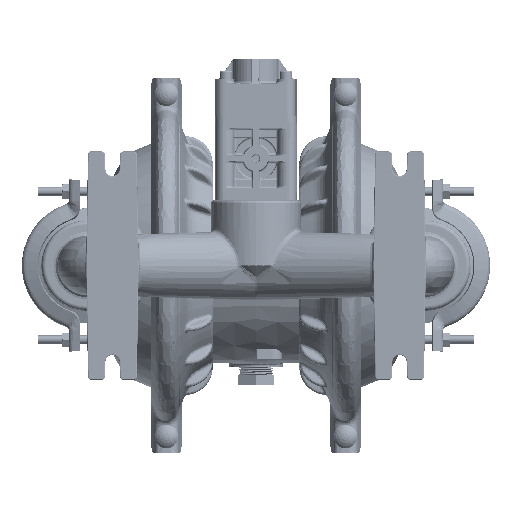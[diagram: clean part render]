
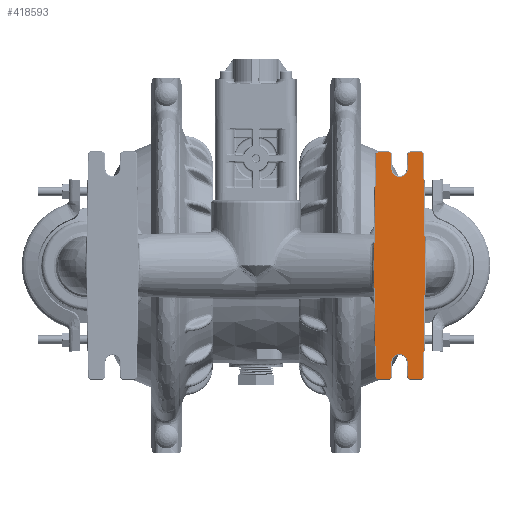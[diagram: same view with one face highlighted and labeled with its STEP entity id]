
A CAD part, front view. The second image highlights one B-rep face of the part: STEP entity #418593.
In plain terms, the highlighted planar face has unit normal (0, -1, 0).
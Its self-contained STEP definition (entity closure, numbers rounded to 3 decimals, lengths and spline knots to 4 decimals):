
#125332=DIRECTION('',(-0.017,0.,1.));
#125333=VECTOR('',#125332,3.4116);
#125334=CARTESIAN_POINT('',(3.6835,-7.682,-3.411));
#125335=LINE('',#125334,#125333);
#125336=DIRECTION('',(-0.017,0.,-1.));
#125337=VECTOR('',#125336,3.4116);
#125338=CARTESIAN_POINT('',(3.6835,-7.682,3.411));
#125339=LINE('',#125338,#125337);
#125340=CARTESIAN_POINT('',(3.7434,-7.682,3.41));
#125341=DIRECTION('',(0.,-1.,0.));
#125342=DIRECTION('',(0.,0.,1.));
#125343=AXIS2_PLACEMENT_3D('',#125340,#125341,#125342);
#125345=DIRECTION('',(-1.,0.,0.));
#125346=VECTOR('',#125345,0.3399);
#125347=CARTESIAN_POINT('',(4.0834,-7.682,3.47));
#125348=LINE('',#125347,#125346);
#125349=CARTESIAN_POINT('',(4.0834,-7.682,3.41));
#125350=DIRECTION('',(0.,-1.,0.));
#125351=DIRECTION('',(1.,0.,0.026));
#125352=AXIS2_PLACEMENT_3D('',#125349,#125350,#125351);
#125354=DIRECTION('',(-0.026,0.,1.));
#125355=VECTOR('',#125354,0.4483);
#125356=CARTESIAN_POINT('',(4.1551,-7.682,2.9635));
#125357=LINE('',#125356,#125355);
#125358=CARTESIAN_POINT('',(4.405,-7.682,2.97));
#125359=DIRECTION('',(0.,1.,0.));
#125360=DIRECTION('',(1.,0.,-0.026));
#125361=AXIS2_PLACEMENT_3D('',#125358,#125359,#125360);
#125363=DIRECTION('',(-0.026,0.,-1.));
#125364=VECTOR('',#125363,0.4483);
#125365=CARTESIAN_POINT('',(4.6666,-7.682,3.4116));
#125366=LINE('',#125365,#125364);
#125367=CARTESIAN_POINT('',(4.7266,-7.682,3.41));
#125368=DIRECTION('',(0.,-1.,0.));
#125369=DIRECTION('',(0.,0.,1.));
#125370=AXIS2_PLACEMENT_3D('',#125367,#125368,#125369);
#125372=DIRECTION('',(-1.,0.,0.));
#125373=VECTOR('',#125372,0.3399);
#125374=CARTESIAN_POINT('',(5.0666,-7.682,3.47));
#125375=LINE('',#125374,#125373);
#125376=CARTESIAN_POINT('',(5.0666,-7.682,3.41));
#125377=DIRECTION('',(0.,-1.,0.));
#125378=DIRECTION('',(1.,0.,0.017));
#125379=AXIS2_PLACEMENT_3D('',#125376,#125377,#125378);
#125381=DIRECTION('',(-0.017,0.,1.));
#125382=VECTOR('',#125381,3.4116);
#125383=CARTESIAN_POINT('',(5.1861,-7.682,0.));
#125384=LINE('',#125383,#125382);
#125385=DIRECTION('',(-0.017,0.,-1.));
#125386=VECTOR('',#125385,3.4116);
#125387=CARTESIAN_POINT('',(5.1861,-7.682,0.));
#125388=LINE('',#125387,#125386);
#125389=CARTESIAN_POINT('',(5.0666,-7.682,-3.41));
#125390=DIRECTION('',(0.,1.,0.));
#125391=DIRECTION('',(1.,0.,-0.017));
#125392=AXIS2_PLACEMENT_3D('',#125389,#125390,#125391);
#125394=DIRECTION('',(-1.,0.,0.));
#125395=VECTOR('',#125394,0.3399);
#125396=CARTESIAN_POINT('',(5.0666,-7.682,-3.47));
#125397=LINE('',#125396,#125395);
#125398=CARTESIAN_POINT('',(4.7266,-7.682,-3.41));
#125399=DIRECTION('',(0.,1.,0.));
#125400=DIRECTION('',(0.,0.,-1.));
#125401=AXIS2_PLACEMENT_3D('',#125398,#125399,#125400);
#125403=DIRECTION('',(-0.026,0.,1.));
#125404=VECTOR('',#125403,0.4483);
#125405=CARTESIAN_POINT('',(4.6666,-7.682,-3.4116));
#125406=LINE('',#125405,#125404);
#125407=CARTESIAN_POINT('',(4.405,-7.682,-2.97));
#125408=DIRECTION('',(0.,-1.,0.));
#125409=DIRECTION('',(1.,0.,0.026));
#125410=AXIS2_PLACEMENT_3D('',#125407,#125408,#125409);
#125412=DIRECTION('',(-0.026,0.,-1.));
#125413=VECTOR('',#125412,0.4483);
#125414=CARTESIAN_POINT('',(4.1551,-7.682,-2.9635));
#125415=LINE('',#125414,#125413);
#125416=CARTESIAN_POINT('',(4.0834,-7.682,-3.41));
#125417=DIRECTION('',(0.,1.,0.));
#125418=DIRECTION('',(1.,0.,-0.026));
#125419=AXIS2_PLACEMENT_3D('',#125416,#125417,#125418);
#125421=DIRECTION('',(-1.,0.,0.));
#125422=VECTOR('',#125421,0.3399);
#125423=CARTESIAN_POINT('',(4.0834,-7.682,-3.47));
#125424=LINE('',#125423,#125422);
#125425=CARTESIAN_POINT('',(3.7434,-7.682,-3.41));
#125426=DIRECTION('',(0.,1.,0.));
#125427=DIRECTION('',(0.,0.,-1.));
#125428=AXIS2_PLACEMENT_3D('',#125425,#125426,#125427);
#156630=CARTESIAN_POINT('',(3.6835,-7.682,-3.411));
#156631=CARTESIAN_POINT('',(3.6239,-7.682,0.));
#156632=VERTEX_POINT('',#156630);
#156633=VERTEX_POINT('',#156631);
#156640=CARTESIAN_POINT('',(3.7434,-7.682,-3.47));
#156641=VERTEX_POINT('',#156640);
#156644=CARTESIAN_POINT('',(4.0834,-7.682,-3.47));
#156645=VERTEX_POINT('',#156644);
#156648=CARTESIAN_POINT('',(4.1434,-7.682,-3.4116));
#156649=VERTEX_POINT('',#156648);
#156652=CARTESIAN_POINT('',(4.1551,-7.682,-2.9635));
#156653=VERTEX_POINT('',#156652);
#156656=CARTESIAN_POINT('',(4.6549,-7.682,-2.9635));
#156657=VERTEX_POINT('',#156656);
#156660=CARTESIAN_POINT('',(4.6666,-7.682,-3.4116));
#156661=VERTEX_POINT('',#156660);
#156664=CARTESIAN_POINT('',(4.7266,-7.682,-3.47));
#156665=VERTEX_POINT('',#156664);
#156668=CARTESIAN_POINT('',(5.0666,-7.682,-3.47));
#156669=VERTEX_POINT('',#156668);
#156672=CARTESIAN_POINT('',(5.1265,-7.682,-3.411));
#156673=VERTEX_POINT('',#156672);
#156676=CARTESIAN_POINT('',(5.1861,-7.682,0.));
#156677=VERTEX_POINT('',#156676);
#156680=CARTESIAN_POINT('',(3.6835,-7.682,3.411));
#156681=VERTEX_POINT('',#156680);
#156682=CARTESIAN_POINT('',(3.7434,-7.682,3.47));
#156683=VERTEX_POINT('',#156682);
#156686=CARTESIAN_POINT('',(4.0834,-7.682,3.47));
#156687=VERTEX_POINT('',#156686);
#156690=CARTESIAN_POINT('',(4.1434,-7.682,3.4116));
#156691=VERTEX_POINT('',#156690);
#156694=CARTESIAN_POINT('',(4.1551,-7.682,2.9635));
#156695=VERTEX_POINT('',#156694);
#156698=CARTESIAN_POINT('',(4.6549,-7.682,2.9635));
#156699=VERTEX_POINT('',#156698);
#156702=CARTESIAN_POINT('',(4.6666,-7.682,3.4116));
#156703=VERTEX_POINT('',#156702);
#156706=CARTESIAN_POINT('',(4.7266,-7.682,3.47));
#156707=VERTEX_POINT('',#156706);
#156710=CARTESIAN_POINT('',(5.0666,-7.682,3.47));
#156711=VERTEX_POINT('',#156710);
#156714=CARTESIAN_POINT('',(5.1265,-7.682,3.411));
#156715=VERTEX_POINT('',#156714);
#418544=CARTESIAN_POINT('',(3.655,-7.682,-3.5));
#418545=DIRECTION('',(0.,-1.,0.));
#418546=DIRECTION('',(1.,0.,0.));
#418547=AXIS2_PLACEMENT_3D('',#418544,#418545,#418546);
#418548=PLANE('',#418547);
#418549=ORIENTED_EDGE('',*,*,#418535,.T.);
#418551=ORIENTED_EDGE('',*,*,#418550,.F.);
#418553=ORIENTED_EDGE('',*,*,#418552,.F.);
#418555=ORIENTED_EDGE('',*,*,#418554,.F.);
#418557=ORIENTED_EDGE('',*,*,#418556,.F.);
#418559=ORIENTED_EDGE('',*,*,#418558,.F.);
#418561=ORIENTED_EDGE('',*,*,#418560,.F.);
#418563=ORIENTED_EDGE('',*,*,#418562,.F.);
#418565=ORIENTED_EDGE('',*,*,#418564,.F.);
#418567=ORIENTED_EDGE('',*,*,#418566,.F.);
#418569=ORIENTED_EDGE('',*,*,#418568,.F.);
#418571=ORIENTED_EDGE('',*,*,#418570,.F.);
#418573=ORIENTED_EDGE('',*,*,#418572,.T.);
#418575=ORIENTED_EDGE('',*,*,#418574,.T.);
#418577=ORIENTED_EDGE('',*,*,#418576,.T.);
#418579=ORIENTED_EDGE('',*,*,#418578,.T.);
#418581=ORIENTED_EDGE('',*,*,#418580,.T.);
#418583=ORIENTED_EDGE('',*,*,#418582,.T.);
#418585=ORIENTED_EDGE('',*,*,#418584,.T.);
#418587=ORIENTED_EDGE('',*,*,#418586,.T.);
#418589=ORIENTED_EDGE('',*,*,#418588,.T.);
#418590=ORIENTED_EDGE('',*,*,#418523,.T.);
#418591=EDGE_LOOP('',(#418549,#418551,#418553,#418555,#418557,#418559,#418561,
#418563,#418565,#418567,#418569,#418571,#418573,#418575,#418577,#418579,#418581,
#418583,#418585,#418587,#418589,#418590));
#418592=FACE_OUTER_BOUND('',#418591,.F.);
#418593=ADVANCED_FACE('',(#418592),#418548,.T.);
#125344=CIRCLE('',#125343,0.06);
#125353=CIRCLE('',#125352,0.06);
#125362=CIRCLE('',#125361,0.25);
#125371=CIRCLE('',#125370,0.06);
#125380=CIRCLE('',#125379,0.06);
#125393=CIRCLE('',#125392,0.06);
#125402=CIRCLE('',#125401,0.06);
#125411=CIRCLE('',#125410,0.25);
#125420=CIRCLE('',#125419,0.06);
#125429=CIRCLE('',#125428,0.06);
#418523=EDGE_CURVE('',#156641,#156632,#125429,.T.);
#418535=EDGE_CURVE('',#156632,#156633,#125335,.T.);
#418550=EDGE_CURVE('',#156681,#156633,#125339,.T.);
#418552=EDGE_CURVE('',#156683,#156681,#125344,.T.);
#418554=EDGE_CURVE('',#156687,#156683,#125348,.T.);
#418556=EDGE_CURVE('',#156691,#156687,#125353,.T.);
#418558=EDGE_CURVE('',#156695,#156691,#125357,.T.);
#418560=EDGE_CURVE('',#156699,#156695,#125362,.T.);
#418562=EDGE_CURVE('',#156703,#156699,#125366,.T.);
#418564=EDGE_CURVE('',#156707,#156703,#125371,.T.);
#418566=EDGE_CURVE('',#156711,#156707,#125375,.T.);
#418568=EDGE_CURVE('',#156715,#156711,#125380,.T.);
#418570=EDGE_CURVE('',#156677,#156715,#125384,.T.);
#418572=EDGE_CURVE('',#156677,#156673,#125388,.T.);
#418574=EDGE_CURVE('',#156673,#156669,#125393,.T.);
#418576=EDGE_CURVE('',#156669,#156665,#125397,.T.);
#418578=EDGE_CURVE('',#156665,#156661,#125402,.T.);
#418580=EDGE_CURVE('',#156661,#156657,#125406,.T.);
#418582=EDGE_CURVE('',#156657,#156653,#125411,.T.);
#418584=EDGE_CURVE('',#156653,#156649,#125415,.T.);
#418586=EDGE_CURVE('',#156649,#156645,#125420,.T.);
#418588=EDGE_CURVE('',#156645,#156641,#125424,.T.);
